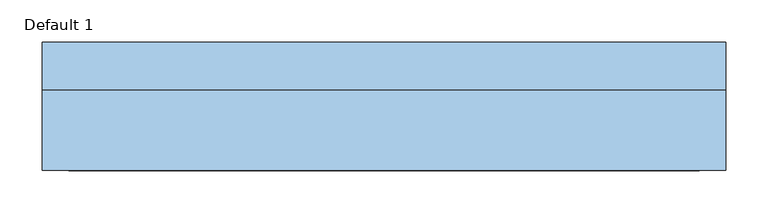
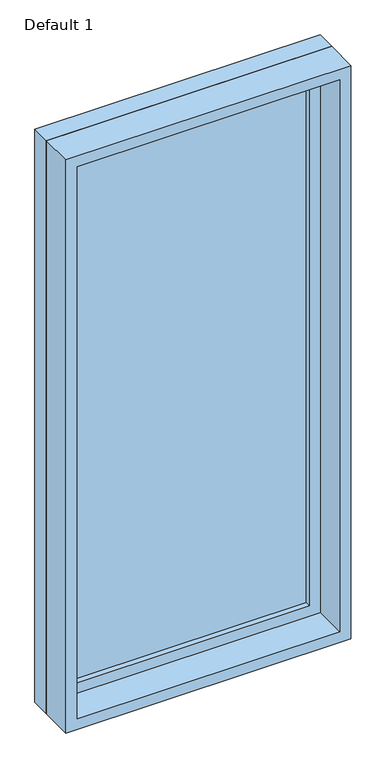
"""IFC4 building model written with IfcOpenShell, lengths in millimetres: window geometry, Planitar-Fixed : Default 1."""

from ifc_helpers import new_model, si_unit, frame, origin, place, context, project, spatial, polyline, outline, extrude, source, transform, mapped, element, save


def default_1_f9e0bd6c(model_context):
    return source(origin(), model_context, "Body", "SweptSolid", [
        extrude(outline(polyline([(2622.6, -387.4), (933.4, -387.4), (933.4, 387.4), (2622.6, 387.4), (2622.6, -387.4)]), holes=[polyline([(2578.6, -343.4), (2578.6, 343.4), (977.4, 343.4), (977.4, -343.4), (2578.6, -343.4)])]), frame((0.0, 32.5, 0.0), z_axis=(0.0, 1.0, 0.0), x_axis=(0.0, 0.0, 1.0)), (0.0, 0.0, 1.0), 44.0),
        extrude(outline(polyline([(2641.6, -406.4), (914.4, -406.4), (914.4, 406.4), (2641.6, 406.4), (2641.6, -406.4)]), holes=[polyline([(2622.6, -387.4), (2622.6, 387.4), (933.4, 387.4), (933.4, -387.4), (2622.6, -387.4)])]), frame((0.0, 32.5, 0.0), z_axis=(0.0, 1.0, 0.0), x_axis=(0.0, 0.0, 1.0)), (0.0, 0.0, 1.0), 56.7),
        extrude(outline(polyline([(2641.6, -406.4), (914.4, -406.4), (914.4, 406.4), (2641.6, 406.4), (2641.6, -406.4)]), holes=[polyline([(2609.6, -374.4), (2609.6, 374.4), (946.4, 374.4), (946.4, -374.4), (2609.6, -374.4)])]), frame((0.0, -63.2, 0.0), z_axis=(0.0, 1.0, 0.0), x_axis=(0.0, 0.0, 1.0)), (0.0, 0.0, 1.0), 95.7),
        extrude(outline(polyline([(-343.4, 60.5), (343.4, 60.5), (343.4, 48.5), (-343.4, 48.5), (-343.4, 60.5)])), frame((0.0, 0.0, 977.4), z_axis=(0.0, 0.0, 1.0), x_axis=(1.0, 0.0, 0.0)), (0.0, 0.0, 1.0), 1601.2),
    ])


if __name__ == "__main__":
    model = new_model("IFC4")
    model_context = context("Model", 3, world=origin())
    ifc_project = project(units=[si_unit("LENGTHUNIT", "METRE", prefix="MILLI")], contexts=[model_context])
    site = spatial("IfcSite", under=ifc_project)
    building = spatial("IfcBuilding", under=site)
    placement = place(None, origin())
    default_1_shape = default_1_f9e0bd6c(model_context)
    element("IfcWindow", 1, ObjectType="Planitar-Fixed : Default 1", at=placement, inside=building, context=model_context, shape_type="MappedRepresentation", body=[
        mapped(default_1_shape, transform((0.0, 0.0, 0.0), x_axis=(1.0, 0.0, 0.0), y_axis=(0.0, 1.0, 0.0), z_axis=(0.0, 0.0, 1.0))),
    ])
    save(model, "model.ifc")
